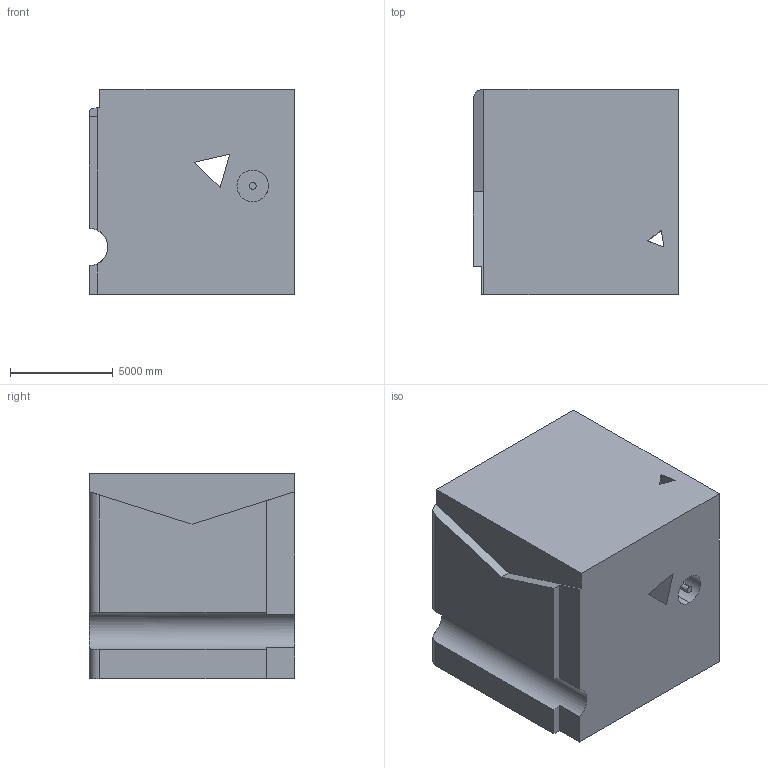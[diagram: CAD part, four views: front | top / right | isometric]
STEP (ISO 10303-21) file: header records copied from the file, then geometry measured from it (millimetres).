
FILE_DESCRIPTION (( 'STEP AP203' ), '1' );
FILE_NAME ('198.STEP', '2022-09-05T16:10:22', ( 'user' ), ( '' ), 'SwSTEP 2.0', 'SolidWorks 2021', '' );
FILE_SCHEMA (( 'CONFIG_CONTROL_DESIGN' ));
Length unit declared in the file: centimetre
Products named in the file (1): 198
Bounding box: 10000 x 10000 x 10000 mm (x, y, z)
Volume: 919194595591.7 mm3; surface area: 785552078.2 mm2
Topology: 1 solids, 1 shells, 44 faces, 123 edges, 82 vertices
Faces by surface type: plane 34, cylinder 10
Entity records: 1607 total; most frequent: CARTESIAN_POINT 371, ORIENTED_EDGE 246, DIRECTION 227, EDGE_CURVE 123, LINE 99, VECTOR 99, VERTEX_POINT 82, AXIS2_PLACEMENT_3D 64
